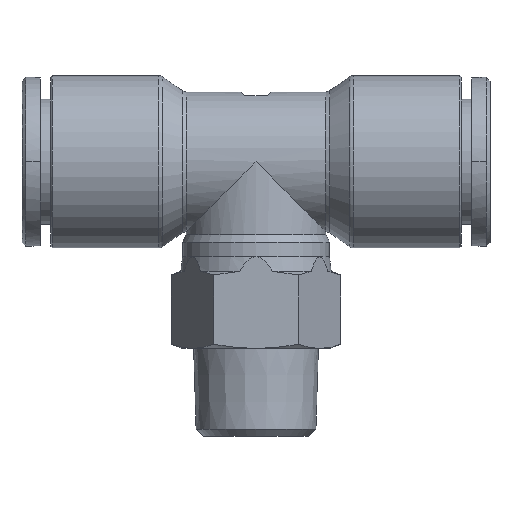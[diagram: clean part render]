
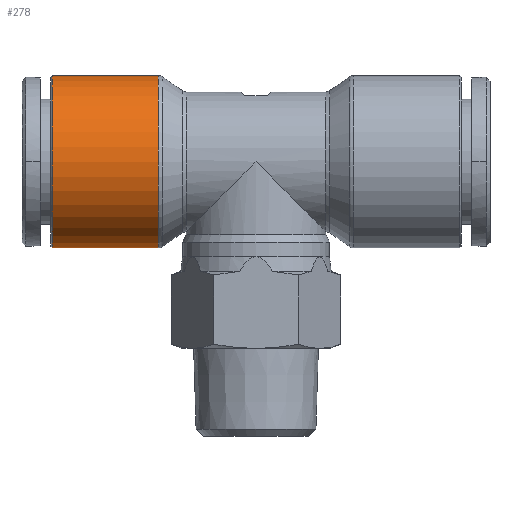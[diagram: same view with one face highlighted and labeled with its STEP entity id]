
A CAD part, front view. The second image highlights one B-rep face of the part: STEP entity #278.
In plain terms, the highlighted cylindrical face has radius 11.75 mm (diameter 23.5 mm), a partial arc.
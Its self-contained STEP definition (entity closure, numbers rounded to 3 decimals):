
#237=CARTESIAN_POINT('',(-19.5,0.,0.));
#238=DIRECTION('',(1.0,0.0,0.0));
#239=DIRECTION('',(0.0,0.0,1.0));
#240=AXIS2_PLACEMENT_3D('',#237,#238,#239);
#241=CYLINDRICAL_SURFACE('',#240,11.75);
#242=CARTESIAN_POINT('',(-27.8,0.,11.75));
#243=VERTEX_POINT('',#242);
#244=CARTESIAN_POINT('',(-13.316,0.,11.75));
#245=VERTEX_POINT('',#244);
#246=CARTESIAN_POINT('',(-27.8,0.,11.75));
#247=DIRECTION('',(1.0,0.0,0.0));
#248=VECTOR('',#247,14.484);
#249=LINE('',#246,#248);
#250=EDGE_CURVE('',#243,#245,#249,.T.);
#251=ORIENTED_EDGE('',*,*,#250,.F.);
#252=CARTESIAN_POINT('',(-27.8,0.,-11.75));
#253=VERTEX_POINT('',#252);
#254=CARTESIAN_POINT('',(-27.8,0.,0.));
#255=DIRECTION('',(-1.0,0.0,0.0));
#256=DIRECTION('',(0.0,0.0,1.0));
#257=AXIS2_PLACEMENT_3D('',#254,#255,#256);
#258=CIRCLE('',#257,11.75);
#259=EDGE_CURVE('',#253,#243,#258,.T.);
#260=ORIENTED_EDGE('',*,*,#259,.F.);
#261=CARTESIAN_POINT('',(-13.316,0.,-11.75));
#262=VERTEX_POINT('',#261);
#263=CARTESIAN_POINT('',(-13.316,0.,-11.75));
#264=DIRECTION('',(-1.0,0.0,0.0));
#265=VECTOR('',#264,14.484);
#266=LINE('',#263,#265);
#267=EDGE_CURVE('',#262,#253,#266,.T.);
#268=ORIENTED_EDGE('',*,*,#267,.F.);
#269=CARTESIAN_POINT('',(-13.316,0.,0.));
#270=DIRECTION('',(1.0,0.0,0.0));
#271=DIRECTION('',(0.0,0.0,-1.0));
#272=AXIS2_PLACEMENT_3D('',#269,#270,#271);
#273=CIRCLE('',#272,11.75);
#274=EDGE_CURVE('',#245,#262,#273,.T.);
#275=ORIENTED_EDGE('',*,*,#274,.F.);
#276=EDGE_LOOP('',(#251,#260,#268,#275));
#277=FACE_OUTER_BOUND('',#276,.T.);
#278=ADVANCED_FACE('',(#277),#241,.T.);
